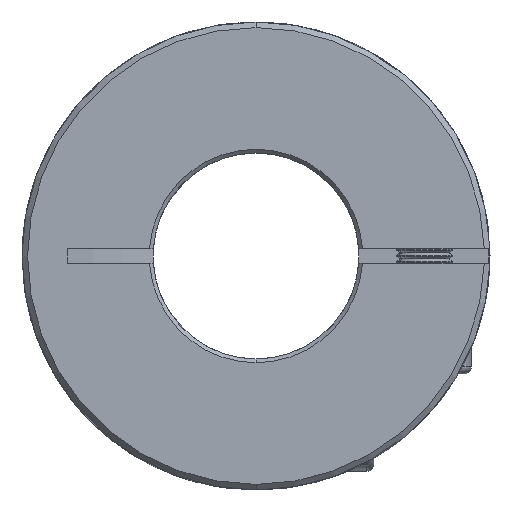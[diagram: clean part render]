
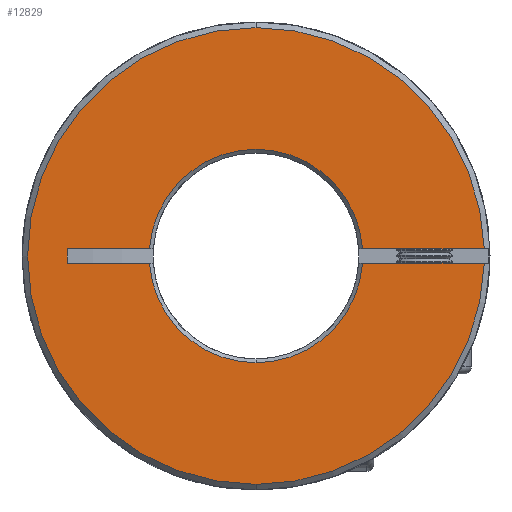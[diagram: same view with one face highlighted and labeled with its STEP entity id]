
A CAD part, front view. The second image highlights one B-rep face of the part: STEP entity #12829.
In plain terms, the highlighted planar face has unit normal (0, -1, 0).
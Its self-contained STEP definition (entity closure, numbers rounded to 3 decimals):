
#82 = EDGE_CURVE ( 'NONE', #14943, #320, #868, .T. ) ;
#320 = VERTEX_POINT ( 'NONE', #6659 ) ;
#868 = LINE ( 'NONE', #13598, #12902 ) ;
#884 = CARTESIAN_POINT ( 'NONE',  ( -50., 0., -0.75 ) ) ;
#1171 = AXIS2_PLACEMENT_3D ( 'NONE', #16081, #12088, #13444 ) ;
#1269 = DIRECTION ( 'NONE',  ( 0., 0., 1. ) ) ;
#1448 = DIRECTION ( 'NONE',  ( 0., -1., 0. ) ) ;
#1492 = DIRECTION ( 'NONE',  ( 0., 0., 1. ) ) ;
#1508 = AXIS2_PLACEMENT_3D ( 'NONE', #1861, #5827, #7218 ) ;
#1571 = CARTESIAN_POINT ( 'NONE',  ( -50., 0., 32.858 ) ) ;
#1618 = DIRECTION ( 'NONE',  ( 1., 0., 0. ) ) ;
#1797 = VECTOR ( 'NONE', #11597, 1000. ) ;
#1861 = CARTESIAN_POINT ( 'NONE',  ( 0., 0., 0. ) ) ;
#2070 = ORIENTED_EDGE ( 'NONE', *, *, #8255, .T. ) ;
#2342 = EDGE_CURVE ( 'NONE', #12475, #7742, #8799, .T. ) ;
#2374 = LINE ( 'NONE', #7147, #3398 ) ;
#2649 = CARTESIAN_POINT ( 'NONE',  ( 11.375, 0., 0.75 ) ) ;
#2903 = CARTESIAN_POINT ( 'NONE',  ( 11.375, 0., -0.75 ) ) ;
#3197 = DIRECTION ( 'NONE',  ( 1., 0., 0. ) ) ;
#3207 = EDGE_CURVE ( 'NONE', #12479, #14943, #10268, .T. ) ;
#3398 = VECTOR ( 'NONE', #3197, 1000. ) ;
#3509 = DIRECTION ( 'NONE',  ( 0., 1., 0. ) ) ;
#4083 = VERTEX_POINT ( 'NONE', #13955 ) ;
#4168 = CARTESIAN_POINT ( 'NONE',  ( 0., 0., 0. ) ) ;
#4178 = PLANE ( 'NONE',  #16334 ) ;
#4806 = VERTEX_POINT ( 'NONE', #10389 ) ;
#5351 = LINE ( 'NONE', #10476, #1797 ) ;
#5356 = DIRECTION ( 'NONE',  ( 0., 1., 0. ) ) ;
#5415 = DIRECTION ( 'NONE',  ( 1., 0., 0. ) ) ;
#5733 = CARTESIAN_POINT ( 'NONE',  ( -11.375, 0., -0.75 ) ) ;
#5827 = DIRECTION ( 'NONE',  ( 0., -1., 0. ) ) ;
#5899 = CIRCLE ( 'NONE', #1508, 24.4 ) ;
#6649 = VERTEX_POINT ( 'NONE', #12553 ) ;
#6659 = CARTESIAN_POINT ( 'NONE',  ( 24.388, 0., 0.75 ) ) ;
#6776 = ORIENTED_EDGE ( 'NONE', *, *, #15545, .F. ) ;
#6782 = CIRCLE ( 'NONE', #11990, 24.4 ) ;
#6940 = CARTESIAN_POINT ( 'NONE',  ( 0., 0., 0. ) ) ;
#7147 = CARTESIAN_POINT ( 'NONE',  ( -50., 0., 0.75 ) ) ;
#7218 = DIRECTION ( 'NONE',  ( 0., 0., 1. ) ) ;
#7465 = CARTESIAN_POINT ( 'NONE',  ( 0., 0., -11.4 ) ) ;
#7650 = EDGE_CURVE ( 'NONE', #4083, #16154, #8372, .T. ) ;
#7661 = CARTESIAN_POINT ( 'NONE',  ( 0., 0., 0. ) ) ;
#7742 = VERTEX_POINT ( 'NONE', #7465 ) ;
#7914 = EDGE_LOOP ( 'NONE', ( #6776, #13820, #16770, #9450, #2070, #12089, #14350, #9503, #11326, #13641, #13066 ) ) ;
#7994 = CARTESIAN_POINT ( 'NONE',  ( -20.149, 0., 0.75 ) ) ;
#8255 = EDGE_CURVE ( 'NONE', #4083, #10937, #5351, .T. ) ;
#8372 = LINE ( 'NONE', #884, #16580 ) ;
#8593 = DIRECTION ( 'NONE',  ( 0., 0., 1. ) ) ;
#8786 = EDGE_CURVE ( 'NONE', #7742, #16154, #14445, .T. ) ;
#8799 = CIRCLE ( 'NONE', #14263, 11.4 ) ;
#9407 = AXIS2_PLACEMENT_3D ( 'NONE', #7661, #3509, #11746 ) ;
#9450 = ORIENTED_EDGE ( 'NONE', *, *, #7650, .F. ) ;
#9467 = EDGE_CURVE ( 'NONE', #6649, #4806, #6782, .T. ) ;
#9503 = ORIENTED_EDGE ( 'NONE', *, *, #82, .T. ) ;
#9513 = EDGE_CURVE ( 'NONE', #10937, #12479, #2374, .T. ) ;
#9608 = DIRECTION ( 'NONE',  ( 0., -1., 0. ) ) ;
#10268 = CIRCLE ( 'NONE', #1171, 11.4 ) ;
#10389 = CARTESIAN_POINT ( 'NONE',  ( 24.388, 0., -0.75 ) ) ;
#10476 = CARTESIAN_POINT ( 'NONE',  ( -20.149, 0., -0.75 ) ) ;
#10937 = VERTEX_POINT ( 'NONE', #7994 ) ;
#11183 = FACE_OUTER_BOUND ( 'NONE', #7914, .T. ) ;
#11326 = ORIENTED_EDGE ( 'NONE', *, *, #11583, .T. ) ;
#11357 = AXIS2_PLACEMENT_3D ( 'NONE', #4168, #9608, #1492 ) ;
#11583 = EDGE_CURVE ( 'NONE', #320, #17087, #5899, .T. ) ;
#11597 = DIRECTION ( 'NONE',  ( 0., 0., 1. ) ) ;
#11746 = DIRECTION ( 'NONE',  ( 0., 0., 1. ) ) ;
#11810 = EDGE_CURVE ( 'NONE', #17087, #6649, #12262, .T. ) ;
#11990 = AXIS2_PLACEMENT_3D ( 'NONE', #14764, #1448, #1269 ) ;
#12088 = DIRECTION ( 'NONE',  ( 0., 1., 0. ) ) ;
#12089 = ORIENTED_EDGE ( 'NONE', *, *, #9513, .T. ) ;
#12262 = CIRCLE ( 'NONE', #11357, 24.4 ) ;
#12353 = CARTESIAN_POINT ( 'NONE',  ( -50., 0., -0.75 ) ) ;
#12475 = VERTEX_POINT ( 'NONE', #2903 ) ;
#12479 = VERTEX_POINT ( 'NONE', #13625 ) ;
#12553 = CARTESIAN_POINT ( 'NONE',  ( 0., 0., -24.4 ) ) ;
#12829 = ADVANCED_FACE ( 'NONE', ( #11183 ), #4178, .F. ) ;
#12902 = VECTOR ( 'NONE', #1618, 1000. ) ;
#13066 = ORIENTED_EDGE ( 'NONE', *, *, #9467, .T. ) ;
#13146 = VECTOR ( 'NONE', #5415, 1000. ) ;
#13387 = CARTESIAN_POINT ( 'NONE',  ( 0., 0., 24.4 ) ) ;
#13444 = DIRECTION ( 'NONE',  ( 0., 0., 1. ) ) ;
#13598 = CARTESIAN_POINT ( 'NONE',  ( -50., 0., 0.75 ) ) ;
#13603 = DIRECTION ( 'NONE',  ( 0., 0., 1. ) ) ;
#13625 = CARTESIAN_POINT ( 'NONE',  ( -11.375, 0., 0.75 ) ) ;
#13641 = ORIENTED_EDGE ( 'NONE', *, *, #11810, .T. ) ;
#13820 = ORIENTED_EDGE ( 'NONE', *, *, #2342, .T. ) ;
#13955 = CARTESIAN_POINT ( 'NONE',  ( -20.149, 0., -0.75 ) ) ;
#14263 = AXIS2_PLACEMENT_3D ( 'NONE', #6940, #5356, #13603 ) ;
#14350 = ORIENTED_EDGE ( 'NONE', *, *, #3207, .T. ) ;
#14384 = DIRECTION ( 'NONE',  ( 1., 0., 0. ) ) ;
#14445 = CIRCLE ( 'NONE', #9407, 11.4 ) ;
#14764 = CARTESIAN_POINT ( 'NONE',  ( 0., 0., 0. ) ) ;
#14943 = VERTEX_POINT ( 'NONE', #2649 ) ;
#15365 = DIRECTION ( 'NONE',  ( 0., 1., 0. ) ) ;
#15545 = EDGE_CURVE ( 'NONE', #12475, #4806, #16726, .T. ) ;
#16081 = CARTESIAN_POINT ( 'NONE',  ( 0., 0., 0. ) ) ;
#16154 = VERTEX_POINT ( 'NONE', #5733 ) ;
#16334 = AXIS2_PLACEMENT_3D ( 'NONE', #1571, #15365, #8593 ) ;
#16580 = VECTOR ( 'NONE', #14384, 1000. ) ;
#16726 = LINE ( 'NONE', #12353, #13146 ) ;
#16770 = ORIENTED_EDGE ( 'NONE', *, *, #8786, .T. ) ;
#17087 = VERTEX_POINT ( 'NONE', #13387 ) ;
